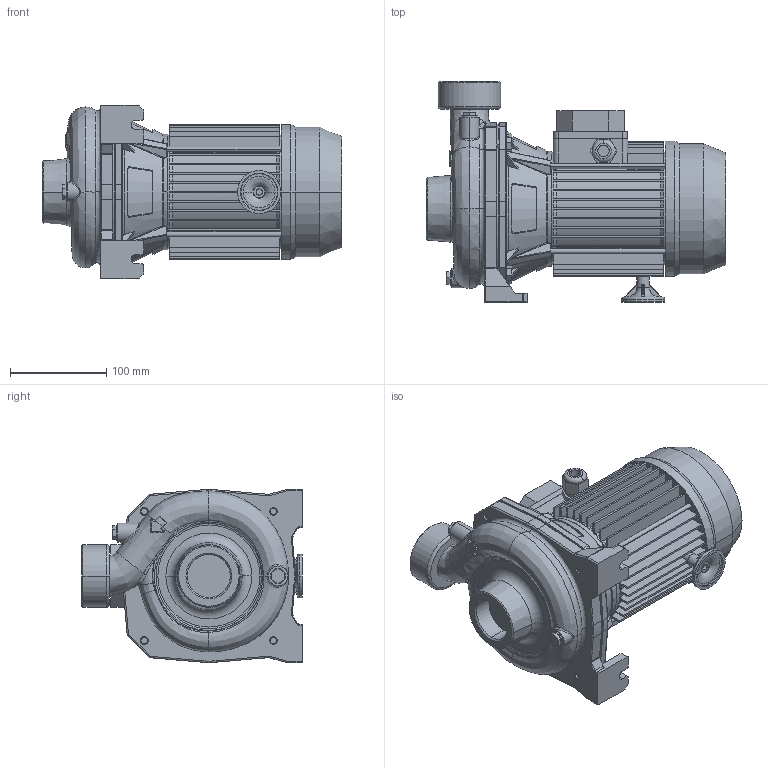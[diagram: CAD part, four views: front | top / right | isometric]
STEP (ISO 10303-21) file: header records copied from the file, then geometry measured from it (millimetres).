
FILE_DESCRIPTION((''),'2;1');
FILE_NAME('CMR_075T_ASM','2014-09-12T',('Rosa'),('"Ebara Pumps Europe +39.444.706811"'),'PRO/ENGINEER BY PARAMETRIC TECHNOLOGY CORPORATION, 2009360','PRO/ENGINEER BY PARAMETRIC TECHNOLOGY CORPORATION, 2009360','');
FILE_SCHEMA(('AUTOMOTIVE_DESIGN { 1 0 10303 214 1 1 1 1 }'));
Length unit declared in the file: millimetre
Products named in the file (6): MEC_71; 80534; 38001; 20508; 72001; CMR_075T_ASM
Assembly tree (5 placements, depth 2):
  CMR_075T_ASM
    MEC_71
    80534
    38001
    20508
    72001
Bounding box: 311.8 x 229 x 180 mm (x, y, z)
Volume: 3599457.8 mm3; surface area: 535475.4 mm2
Topology: 5 solids, 11 shells, 1090 faces, 2629 edges, 1595 vertices
Faces by surface type: plane 443, cylinder 283, bspline 172, cone 92, torus 63, sphere 37
Entity records: 50383 total; most frequent: CARTESIAN_POINT 16876, ORIENTED_EDGE 5242, DIRECTION 4863, EDGE_CURVE 2629, PRESENTATION_STYLE_ASSIGNMENT 1964, STYLED_ITEM 1964, AXIS2_PLACEMENT_3D 1864, CURVE_STYLE 1792
